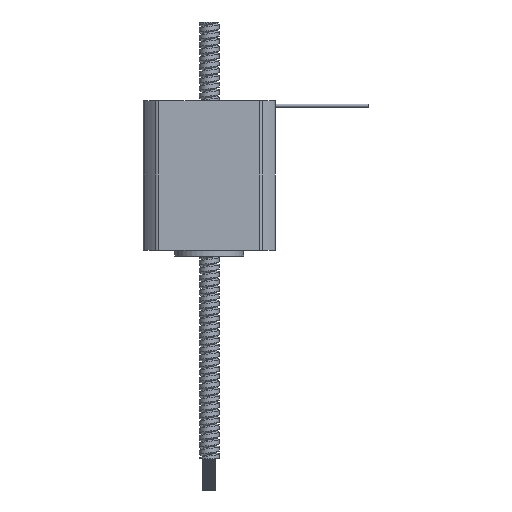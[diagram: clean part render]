
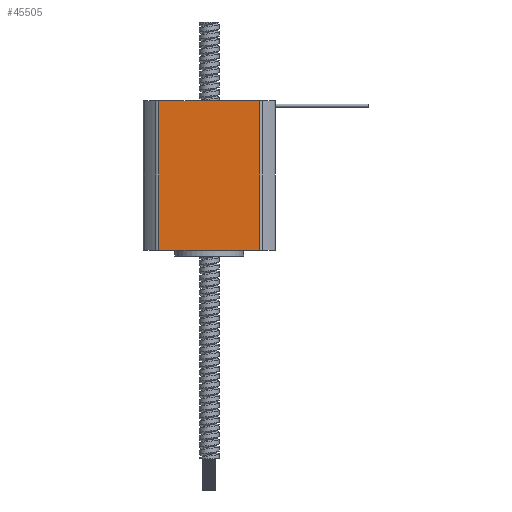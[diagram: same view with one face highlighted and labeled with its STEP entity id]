
A CAD part, front view. The second image highlights one B-rep face of the part: STEP entity #45505.
In plain terms, the highlighted planar face has unit normal (0, -1, 0).
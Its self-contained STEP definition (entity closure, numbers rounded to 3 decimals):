
#22408 = PLANE('',#22409);
#22409 = AXIS2_PLACEMENT_3D('',#22410,#22411,#22412);
#22410 = CARTESIAN_POINT('',(0.,0.,49.8));
#22411 = DIRECTION('',(0.,0.,1.));
#22412 = DIRECTION('',(1.,0.,0.));
#26881 = PLANE('',#26882);
#26882 = AXIS2_PLACEMENT_3D('',#26883,#26884,#26885);
#26883 = CARTESIAN_POINT('',(0.,0.,1.8));
#26884 = DIRECTION('',(0.,0.,1.));
#26885 = DIRECTION('',(1.,0.,0.));
#42772 = VERTEX_POINT('',#42773);
#42773 = CARTESIAN_POINT('',(-16.155,-21.1,49.8));
#42788 = CYLINDRICAL_SURFACE('',#42789,1.5);
#42789 = AXIS2_PLACEMENT_3D('',#42790,#42791,#42792);
#42790 = CARTESIAN_POINT('',(-16.155,-19.6,49.8));
#42791 = DIRECTION('',(0.,0.,-1.));
#42792 = DIRECTION('',(-1.,0.,0.));
#42822 = EDGE_CURVE('',#42772,#42823,#42825,.T.);
#42823 = VERTEX_POINT('',#42824);
#42824 = CARTESIAN_POINT('',(16.155,-21.1,49.8));
#42825 = SURFACE_CURVE('',#42826,(#42830,#42837),.PCURVE_S1.);
#42826 = LINE('',#42827,#42828);
#42827 = CARTESIAN_POINT('',(-16.155,-21.1,49.8));
#42828 = VECTOR('',#42829,1.);
#42829 = DIRECTION('',(1.,0.,0.));
#42830 = PCURVE('',#22408,#42831);
#42831 = DEFINITIONAL_REPRESENTATION('',(#42832),#42836);
#42832 = LINE('',#42833,#42834);
#42833 = CARTESIAN_POINT('',(-16.155,-21.1));
#42834 = VECTOR('',#42835,1.);
#42835 = DIRECTION('',(1.,0.));
#42836 = ( GEOMETRIC_REPRESENTATION_CONTEXT(2) 
PARAMETRIC_REPRESENTATION_CONTEXT() REPRESENTATION_CONTEXT('2D SPACE',''
  ) );
#42837 = PCURVE('',#42838,#42843);
#42838 = PLANE('',#42839);
#42839 = AXIS2_PLACEMENT_3D('',#42840,#42841,#42842);
#42840 = CARTESIAN_POINT('',(-16.155,-21.1,49.8));
#42841 = DIRECTION('',(0.,1.,0.));
#42842 = DIRECTION('',(0.,0.,1.));
#42843 = DEFINITIONAL_REPRESENTATION('',(#42844),#42848);
#42844 = LINE('',#42845,#42846);
#42845 = CARTESIAN_POINT('',(0.,0.));
#42846 = VECTOR('',#42847,1.);
#42847 = DIRECTION('',(0.,1.));
#42848 = ( GEOMETRIC_REPRESENTATION_CONTEXT(2) 
PARAMETRIC_REPRESENTATION_CONTEXT() REPRESENTATION_CONTEXT('2D SPACE',''
  ) );
#42867 = CYLINDRICAL_SURFACE('',#42868,1.5);
#42868 = AXIS2_PLACEMENT_3D('',#42869,#42870,#42871);
#42869 = CARTESIAN_POINT('',(16.155,-19.6,49.8));
#42870 = DIRECTION('',(0.,0.,-1.));
#42871 = DIRECTION('',(-1.,0.,0.));
#45206 = VERTEX_POINT('',#45207);
#45207 = CARTESIAN_POINT('',(16.155,-21.1,1.8));
#45251 = EDGE_CURVE('',#45252,#45206,#45254,.T.);
#45252 = VERTEX_POINT('',#45253);
#45253 = CARTESIAN_POINT('',(-16.155,-21.1,1.8));
#45254 = SURFACE_CURVE('',#45255,(#45259,#45266),.PCURVE_S1.);
#45255 = LINE('',#45256,#45257);
#45256 = CARTESIAN_POINT('',(-16.155,-21.1,1.8));
#45257 = VECTOR('',#45258,1.);
#45258 = DIRECTION('',(1.,0.,0.));
#45259 = PCURVE('',#26881,#45260);
#45260 = DEFINITIONAL_REPRESENTATION('',(#45261),#45265);
#45261 = LINE('',#45262,#45263);
#45262 = CARTESIAN_POINT('',(-16.155,-21.1));
#45263 = VECTOR('',#45264,1.);
#45264 = DIRECTION('',(1.,0.));
#45265 = ( GEOMETRIC_REPRESENTATION_CONTEXT(2) 
PARAMETRIC_REPRESENTATION_CONTEXT() REPRESENTATION_CONTEXT('2D SPACE',''
  ) );
#45266 = PCURVE('',#42838,#45267);
#45267 = DEFINITIONAL_REPRESENTATION('',(#45268),#45272);
#45268 = LINE('',#45269,#45270);
#45269 = CARTESIAN_POINT('',(-48.,0.));
#45270 = VECTOR('',#45271,1.);
#45271 = DIRECTION('',(0.,1.));
#45272 = ( GEOMETRIC_REPRESENTATION_CONTEXT(2) 
PARAMETRIC_REPRESENTATION_CONTEXT() REPRESENTATION_CONTEXT('2D SPACE',''
  ) );
#45461 = EDGE_CURVE('',#42772,#45252,#45462,.T.);
#45462 = SURFACE_CURVE('',#45463,(#45467,#45496),.PCURVE_S1.);
#45463 = LINE('',#45464,#45465);
#45464 = CARTESIAN_POINT('',(-16.155,-21.1,49.8));
#45465 = VECTOR('',#45466,1.);
#45466 = DIRECTION('',(0.,0.,-1.));
#45467 = PCURVE('',#42788,#45468);
#45468 = DEFINITIONAL_REPRESENTATION('',(#45469),#45495);
#45469 = B_SPLINE_CURVE_WITH_KNOTS('',3,(#45470,#45471,#45472,#45473,
    #45474,#45475,#45476,#45477,#45478,#45479,#45480,#45481,#45482,
    #45483,#45484,#45485,#45486,#45487,#45488,#45489,#45490,#45491,
    #45492,#45493,#45494),.UNSPECIFIED.,.F.,.F.,(4,1,1,1,1,1,1,1,1,1,1,1
    ,1,1,1,1,1,1,1,1,1,1,4),(0.,2.182,4.364,
    6.545,8.727,10.909,13.091,
    15.273,17.455,19.636,21.818,24.,
    26.182,28.364,30.545,32.727,
    34.909,37.091,39.273,41.455,
    43.636,45.818,48.),.UNSPECIFIED.);
#45470 = CARTESIAN_POINT('',(4.712,0.));
#45471 = CARTESIAN_POINT('',(4.712,0.727));
#45472 = CARTESIAN_POINT('',(4.712,2.182));
#45473 = CARTESIAN_POINT('',(4.712,4.364));
#45474 = CARTESIAN_POINT('',(4.712,6.545));
#45475 = CARTESIAN_POINT('',(4.712,8.727));
#45476 = CARTESIAN_POINT('',(4.712,10.909));
#45477 = CARTESIAN_POINT('',(4.712,13.091));
#45478 = CARTESIAN_POINT('',(4.712,15.273));
#45479 = CARTESIAN_POINT('',(4.712,17.455));
#45480 = CARTESIAN_POINT('',(4.712,19.636));
#45481 = CARTESIAN_POINT('',(4.712,21.818));
#45482 = CARTESIAN_POINT('',(4.712,24.));
#45483 = CARTESIAN_POINT('',(4.712,26.182));
#45484 = CARTESIAN_POINT('',(4.712,28.364));
#45485 = CARTESIAN_POINT('',(4.712,30.545));
#45486 = CARTESIAN_POINT('',(4.712,32.727));
#45487 = CARTESIAN_POINT('',(4.712,34.909));
#45488 = CARTESIAN_POINT('',(4.712,37.091));
#45489 = CARTESIAN_POINT('',(4.712,39.273));
#45490 = CARTESIAN_POINT('',(4.712,41.455));
#45491 = CARTESIAN_POINT('',(4.712,43.636));
#45492 = CARTESIAN_POINT('',(4.712,45.818));
#45493 = CARTESIAN_POINT('',(4.712,47.273));
#45494 = CARTESIAN_POINT('',(4.712,48.));
#45495 = ( GEOMETRIC_REPRESENTATION_CONTEXT(2) 
PARAMETRIC_REPRESENTATION_CONTEXT() REPRESENTATION_CONTEXT('2D SPACE',''
  ) );
#45496 = PCURVE('',#42838,#45497);
#45497 = DEFINITIONAL_REPRESENTATION('',(#45498),#45502);
#45498 = LINE('',#45499,#45500);
#45499 = CARTESIAN_POINT('',(0.,0.));
#45500 = VECTOR('',#45501,1.);
#45501 = DIRECTION('',(-1.,0.));
#45502 = ( GEOMETRIC_REPRESENTATION_CONTEXT(2) 
PARAMETRIC_REPRESENTATION_CONTEXT() REPRESENTATION_CONTEXT('2D SPACE',''
  ) );
#45505 = ADVANCED_FACE('',(#45506),#42838,.F.);
#45506 = FACE_BOUND('',#45507,.T.);
#45507 = EDGE_LOOP('',(#45508,#45509,#45552,#45553));
#45508 = ORIENTED_EDGE('',*,*,#45251,.T.);
#45509 = ORIENTED_EDGE('',*,*,#45510,.F.);
#45510 = EDGE_CURVE('',#42823,#45206,#45511,.T.);
#45511 = SURFACE_CURVE('',#45512,(#45516,#45523),.PCURVE_S1.);
#45512 = LINE('',#45513,#45514);
#45513 = CARTESIAN_POINT('',(16.155,-21.1,49.8));
#45514 = VECTOR('',#45515,1.);
#45515 = DIRECTION('',(0.,0.,-1.));
#45516 = PCURVE('',#42838,#45517);
#45517 = DEFINITIONAL_REPRESENTATION('',(#45518),#45522);
#45518 = LINE('',#45519,#45520);
#45519 = CARTESIAN_POINT('',(0.,32.311));
#45520 = VECTOR('',#45521,1.);
#45521 = DIRECTION('',(-1.,0.));
#45522 = ( GEOMETRIC_REPRESENTATION_CONTEXT(2) 
PARAMETRIC_REPRESENTATION_CONTEXT() REPRESENTATION_CONTEXT('2D SPACE',''
  ) );
#45523 = PCURVE('',#42867,#45524);
#45524 = DEFINITIONAL_REPRESENTATION('',(#45525),#45551);
#45525 = B_SPLINE_CURVE_WITH_KNOTS('',3,(#45526,#45527,#45528,#45529,
    #45530,#45531,#45532,#45533,#45534,#45535,#45536,#45537,#45538,
    #45539,#45540,#45541,#45542,#45543,#45544,#45545,#45546,#45547,
    #45548,#45549,#45550),.UNSPECIFIED.,.F.,.F.,(4,1,1,1,1,1,1,1,1,1,1,1
    ,1,1,1,1,1,1,1,1,1,1,4),(0.,2.182,4.364,
    6.545,8.727,10.909,13.091,
    15.273,17.455,19.636,21.818,24.,
    26.182,28.364,30.545,32.727,
    34.909,37.091,39.273,41.455,
    43.636,45.818,48.),.UNSPECIFIED.);
#45526 = CARTESIAN_POINT('',(4.712,0.));
#45527 = CARTESIAN_POINT('',(4.712,0.727));
#45528 = CARTESIAN_POINT('',(4.712,2.182));
#45529 = CARTESIAN_POINT('',(4.712,4.364));
#45530 = CARTESIAN_POINT('',(4.712,6.545));
#45531 = CARTESIAN_POINT('',(4.712,8.727));
#45532 = CARTESIAN_POINT('',(4.712,10.909));
#45533 = CARTESIAN_POINT('',(4.712,13.091));
#45534 = CARTESIAN_POINT('',(4.712,15.273));
#45535 = CARTESIAN_POINT('',(4.712,17.455));
#45536 = CARTESIAN_POINT('',(4.712,19.636));
#45537 = CARTESIAN_POINT('',(4.712,21.818));
#45538 = CARTESIAN_POINT('',(4.712,24.));
#45539 = CARTESIAN_POINT('',(4.712,26.182));
#45540 = CARTESIAN_POINT('',(4.712,28.364));
#45541 = CARTESIAN_POINT('',(4.712,30.545));
#45542 = CARTESIAN_POINT('',(4.712,32.727));
#45543 = CARTESIAN_POINT('',(4.712,34.909));
#45544 = CARTESIAN_POINT('',(4.712,37.091));
#45545 = CARTESIAN_POINT('',(4.712,39.273));
#45546 = CARTESIAN_POINT('',(4.712,41.455));
#45547 = CARTESIAN_POINT('',(4.712,43.636));
#45548 = CARTESIAN_POINT('',(4.712,45.818));
#45549 = CARTESIAN_POINT('',(4.712,47.273));
#45550 = CARTESIAN_POINT('',(4.712,48.));
#45551 = ( GEOMETRIC_REPRESENTATION_CONTEXT(2) 
PARAMETRIC_REPRESENTATION_CONTEXT() REPRESENTATION_CONTEXT('2D SPACE',''
  ) );
#45552 = ORIENTED_EDGE('',*,*,#42822,.F.);
#45553 = ORIENTED_EDGE('',*,*,#45461,.T.);
